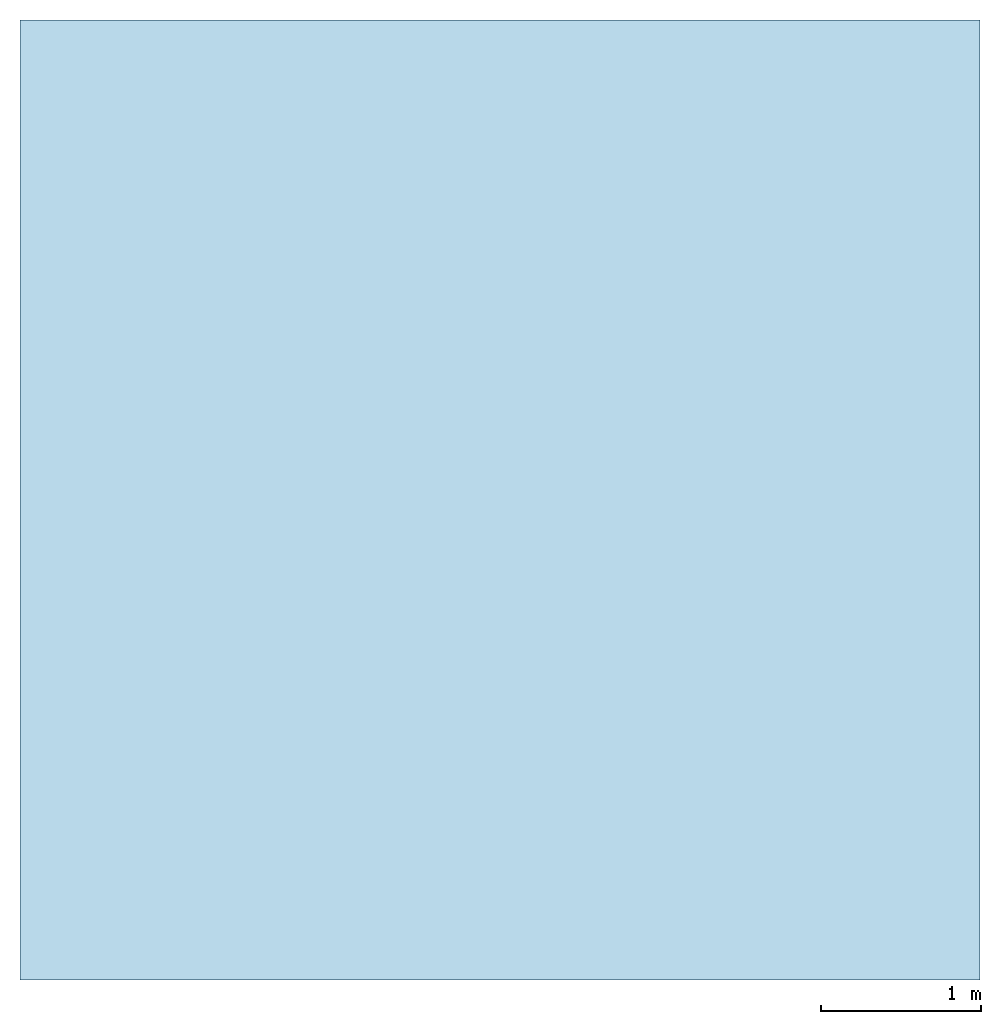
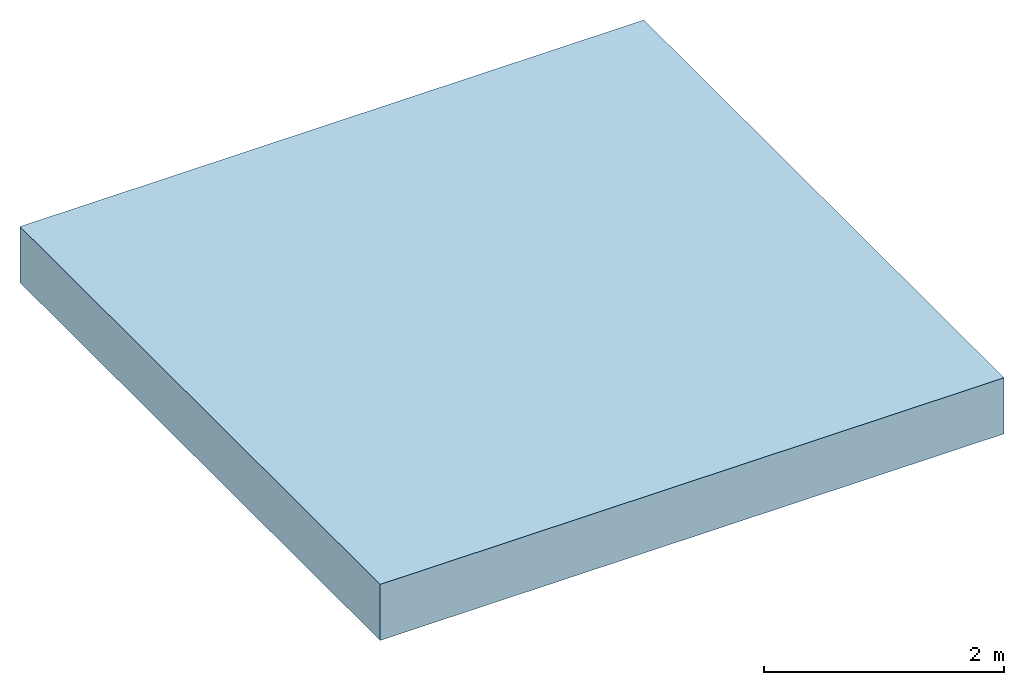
# One storey: 1 slab.
"""IFC2X3 building model written with IfcOpenShell, lengths in metres."""

from ifc_helpers import new_model, entity, si_unit, converted_unit, derived_unit, direction, frame, origin, origin_2d_with_axis, place, context, subcontext, project, spatial, rectangle, extrude, material, layer, layer_set, layer_usage, type_object, element, save


model = new_model("IFC2X3")

# Units and contexts
model_context = context("Model", 3, precision=1e-05, world=origin(), true_north=direction((6.123233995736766e-17, 1.0)))
body_context = subcontext(model_context, "Body", "Model", "MODEL_VIEW")
ifc_project = project(units=[si_unit("LENGTHUNIT", "METRE"), si_unit("AREAUNIT", "SQUARE_METRE"), converted_unit("PLANEANGLEUNIT", "DEGREE", entity("IfcPlaneAngleMeasure", 0.017453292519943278), si_unit("PLANEANGLEUNIT", "RADIAN"), dimensions=[0, 0, 0, 0, 0, 0, 0]), derived_unit("THERMALTRANSMITTANCEUNIT", [(si_unit("MASSUNIT", "GRAM", prefix="KILO"), 1), (si_unit("THERMODYNAMICTEMPERATUREUNIT", "KELVIN"), -1), (si_unit("TIMEUNIT", "SECOND"), -3)])], contexts=[model_context])

# Site, building, storey
site_placement = place(None, origin())
site = spatial("IfcSite", under=ifc_project, at=site_placement, Name="Default", CompositionType="ELEMENT")
building_placement = place(site_placement, origin())
building = spatial("IfcBuilding", under=site, at=building_placement, CompositionType="ELEMENT")
storey_placement = place(building_placement, frame((0.0, 0.0, -2.0)))
storey = spatial("IfcBuildingStorey", under=building, at=storey_placement, Name="Foundations", CompositionType="ELEMENT", Elevation=-2.0)

# Slab
ifc_material_1 = material(Name="Lime Plaster")
ifc_layer_1 = layer(ifc_material_1, 0.02)
ifc_material_2 = material(Name="Cocrete Slab")
ifc_layer_2 = layer(ifc_material_2, 0.24999999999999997)
ifc_material_3 = material(Name="Concrete Screed")
ifc_layer_3 = layer(ifc_material_3, 0.06)
ifc_material_4 = material(Name="XPS")
ifc_layer_4 = layer(ifc_material_4, 0.1)
ifc_material_5 = material(Name="Sand")
ifc_layer_5 = layer(ifc_material_5, 0.04)
ifc_material_6 = material(Name="air cavity")
ifc_layer_6 = layer(ifc_material_6, 0.05)
ifc_material_7 = material(Name="Natural Stone")
ifc_layer_7 = layer(ifc_material_7, 0.05)
ifc_layer_set = layer_set([ifc_layer_1, ifc_layer_2, ifc_layer_3, ifc_layer_4, ifc_layer_5, ifc_layer_6, ifc_layer_7], Name="Foundation Slab:Platea")
ifc_layer_usage = layer_usage(ifc_layer_set, "AXIS3", "POSITIVE", 0.0)
slab_type = type_object("IfcSlabType", Name="Foundation Slab:Platea", PredefinedType="BASESLAB", material=ifc_layer_set)
slab_placement = place(storey_placement, origin())
element("IfcSlab", 1, at=slab_placement, inside=storey, type_object=slab_type, material=ifc_layer_usage, Name="Foundation Slab:Platea", ObjectType="Foundation Slab:Platea", PredefinedType="BASESLAB", context=body_context, shape_type="SweptSolid", body=[
    extrude(rectangle(XDim=5.999999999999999, YDim=6.000000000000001, at=origin_2d_with_axis()), frame((0.578075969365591, 0.767051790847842, 1.6920000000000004), z_axis=(0.0, 0.0, -1.0), x_axis=(0.0, 1.0, 0.0)), (0.0, 0.0, 1.0), 0.57),
])

save(model, "model.ifc")
